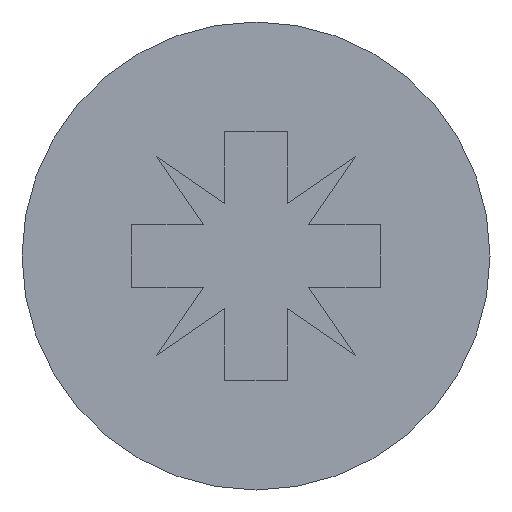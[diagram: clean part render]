
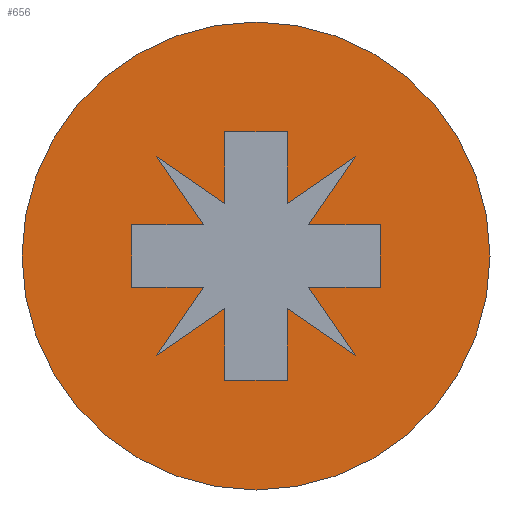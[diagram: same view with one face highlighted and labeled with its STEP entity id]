
A CAD part, left-side view. The second image highlights one B-rep face of the part: STEP entity #656.
In plain terms, the highlighted planar face has unit normal (-1, 0, 0).
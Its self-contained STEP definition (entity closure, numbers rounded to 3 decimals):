
#110=FACE_BOUND('',#190,.T.);
#125=CIRCLE('',#704,2.35);
#159=FACE_OUTER_BOUND('',#189,.T.);
#189=EDGE_LOOP('',(#583));
#190=EDGE_LOOP('',(#584,#585,#586,#587,#588,#589,#590,#591,#592,#593,#594,
#595,#596,#597,#598,#599,#600,#601,#602,#603));
#192=LINE('',#871,#258);
#196=LINE('',#880,#262);
#200=LINE('',#889,#266);
#206=LINE('',#901,#272);
#209=LINE('',#907,#275);
#212=LINE('',#913,#278);
#215=LINE('',#919,#281);
#217=LINE('',#924,#283);
#221=LINE('',#931,#287);
#224=LINE('',#937,#290);
#227=LINE('',#943,#293);
#237=LINE('',#961,#303);
#239=LINE('',#966,#305);
#242=LINE('',#970,#308);
#243=LINE('',#972,#309);
#244=LINE('',#975,#310);
#246=LINE('',#978,#312);
#247=LINE('',#981,#313);
#249=LINE('',#984,#315);
#250=LINE('',#986,#316);
#258=VECTOR('',#718,10.);
#262=VECTOR('',#724,10.);
#266=VECTOR('',#730,10.);
#272=VECTOR('',#738,10.);
#275=VECTOR('',#743,10.);
#278=VECTOR('',#748,10.);
#281=VECTOR('',#753,10.);
#283=VECTOR('',#757,10.);
#287=VECTOR('',#763,10.);
#290=VECTOR('',#768,10.);
#293=VECTOR('',#773,10.);
#303=VECTOR('',#787,10.);
#305=VECTOR('',#791,10.);
#308=VECTOR('',#796,10.);
#309=VECTOR('',#799,10.);
#310=VECTOR('',#802,10.);
#312=VECTOR('',#806,10.);
#313=VECTOR('',#809,10.);
#315=VECTOR('',#813,10.);
#316=VECTOR('',#816,10.);
#323=VERTEX_POINT('',#867);
#325=VERTEX_POINT('',#870);
#327=VERTEX_POINT('',#876);
#329=VERTEX_POINT('',#879);
#331=VERTEX_POINT('',#885);
#333=VERTEX_POINT('',#888);
#336=VERTEX_POINT('',#895);
#338=VERTEX_POINT('',#899);
#340=VERTEX_POINT('',#904);
#342=VERTEX_POINT('',#910);
#344=VERTEX_POINT('',#916);
#345=VERTEX_POINT('',#921);
#348=VERTEX_POINT('',#929);
#350=VERTEX_POINT('',#935);
#352=VERTEX_POINT('',#941);
#358=VERTEX_POINT('',#960);
#359=VERTEX_POINT('',#964);
#360=VERTEX_POINT('',#965);
#361=VERTEX_POINT('',#974);
#362=VERTEX_POINT('',#980);
#370=VERTEX_POINT('',#1008);
#374=EDGE_CURVE('',#325,#323,#192,.T.);
#378=EDGE_CURVE('',#329,#327,#196,.T.);
#382=EDGE_CURVE('',#333,#331,#200,.T.);
#388=EDGE_CURVE('',#336,#338,#206,.T.);
#391=EDGE_CURVE('',#340,#333,#209,.T.);
#394=EDGE_CURVE('',#342,#325,#212,.T.);
#397=EDGE_CURVE('',#344,#329,#215,.T.);
#399=EDGE_CURVE('',#338,#345,#217,.T.);
#403=EDGE_CURVE('',#323,#348,#221,.T.);
#406=EDGE_CURVE('',#327,#350,#224,.T.);
#409=EDGE_CURVE('',#331,#352,#227,.T.);
#419=EDGE_CURVE('',#358,#336,#237,.T.);
#421=EDGE_CURVE('',#359,#360,#239,.T.);
#424=EDGE_CURVE('',#345,#359,#242,.T.);
#425=EDGE_CURVE('',#352,#358,#243,.T.);
#426=EDGE_CURVE('',#361,#340,#244,.T.);
#428=EDGE_CURVE('',#348,#361,#246,.T.);
#429=EDGE_CURVE('',#362,#342,#247,.T.);
#431=EDGE_CURVE('',#350,#362,#249,.T.);
#432=EDGE_CURVE('',#360,#344,#250,.T.);
#444=EDGE_CURVE('',#370,#370,#125,.T.);
#583=ORIENTED_EDGE('',*,*,#444,.F.);
#584=ORIENTED_EDGE('',*,*,#374,.T.);
#585=ORIENTED_EDGE('',*,*,#403,.T.);
#586=ORIENTED_EDGE('',*,*,#428,.T.);
#587=ORIENTED_EDGE('',*,*,#426,.T.);
#588=ORIENTED_EDGE('',*,*,#391,.T.);
#589=ORIENTED_EDGE('',*,*,#382,.T.);
#590=ORIENTED_EDGE('',*,*,#409,.T.);
#591=ORIENTED_EDGE('',*,*,#425,.T.);
#592=ORIENTED_EDGE('',*,*,#419,.T.);
#593=ORIENTED_EDGE('',*,*,#388,.T.);
#594=ORIENTED_EDGE('',*,*,#399,.T.);
#595=ORIENTED_EDGE('',*,*,#424,.T.);
#596=ORIENTED_EDGE('',*,*,#421,.T.);
#597=ORIENTED_EDGE('',*,*,#432,.T.);
#598=ORIENTED_EDGE('',*,*,#397,.T.);
#599=ORIENTED_EDGE('',*,*,#378,.T.);
#600=ORIENTED_EDGE('',*,*,#406,.T.);
#601=ORIENTED_EDGE('',*,*,#431,.T.);
#602=ORIENTED_EDGE('',*,*,#429,.T.);
#603=ORIENTED_EDGE('',*,*,#394,.T.);
#626=PLANE('',#711);
#656=ADVANCED_FACE('',(#159,#110),#626,.T.);
#704=AXIS2_PLACEMENT_3D('',#1010,#844,#845);
#711=AXIS2_PLACEMENT_3D('',#1022,#861,#862);
#718=DIRECTION('',(0.,0.824,0.567));
#724=DIRECTION('',(0.,0.567,-0.824));
#730=DIRECTION('',(0.,-0.567,0.824));
#738=DIRECTION('',(0.,0.567,0.824));
#743=DIRECTION('',(0.,0.824,-0.567));
#748=DIRECTION('',(0.,-0.567,-0.824));
#753=DIRECTION('',(0.,-0.824,0.567));
#757=DIRECTION('',(0.,-0.824,-0.567));
#763=DIRECTION('',(0.,0.,-1.));
#768=DIRECTION('',(0.,-1.,0.));
#773=DIRECTION('',(0.,1.,0.));
#787=DIRECTION('',(0.,-1.,0.));
#791=DIRECTION('',(0.,-1.,0.));
#796=DIRECTION('',(0.,0.,1.));
#799=DIRECTION('',(0.,0.,1.));
#802=DIRECTION('',(0.,0.,1.));
#806=DIRECTION('',(0.,1.,0.));
#809=DIRECTION('',(0.,1.,0.));
#813=DIRECTION('',(0.,0.,-1.));
#816=DIRECTION('',(0.,0.,-1.));
#844=DIRECTION('center_axis',(1.,0.,0.));
#845=DIRECTION('ref_axis',(0.,0.,-1.));
#861=DIRECTION('center_axis',(-1.,0.,0.));
#862=DIRECTION('ref_axis',(0.,0.,1.));
#867=CARTESIAN_POINT('',(0.,-0.313,-0.527));
#870=CARTESIAN_POINT('',(0.,-1.,-1.));
#871=CARTESIAN_POINT('',(0.,0.371,-0.058));
#876=CARTESIAN_POINT('',(0.,-0.527,0.313));
#879=CARTESIAN_POINT('',(0.,-1.,1.));
#880=CARTESIAN_POINT('',(0.,-0.229,-0.121));
#885=CARTESIAN_POINT('',(0.,0.527,-0.313));
#888=CARTESIAN_POINT('',(0.,1.,-1.));
#889=CARTESIAN_POINT('',(0.,0.983,-0.976));
#895=CARTESIAN_POINT('',(0.,0.527,0.313));
#899=CARTESIAN_POINT('',(0.,1.,1.));
#901=CARTESIAN_POINT('',(0.,0.639,0.476));
#904=CARTESIAN_POINT('',(0.,0.313,-0.527));
#907=CARTESIAN_POINT('',(0.,0.725,-0.811));
#910=CARTESIAN_POINT('',(0.,-0.527,-0.313));
#913=CARTESIAN_POINT('',(0.,0.115,0.621));
#916=CARTESIAN_POINT('',(0.,-0.313,0.527));
#919=CARTESIAN_POINT('',(0.,0.871,-0.286));
#921=CARTESIAN_POINT('',(0.,0.313,0.527));
#924=CARTESIAN_POINT('',(0.,1.225,1.155));
#929=CARTESIAN_POINT('',(0.,-0.313,-1.25));
#931=CARTESIAN_POINT('',(0.,-0.313,-0.156));
#935=CARTESIAN_POINT('',(0.,-1.25,0.313));
#937=CARTESIAN_POINT('',(0.,1.019,0.313));
#941=CARTESIAN_POINT('',(0.,1.25,-0.313));
#943=CARTESIAN_POINT('',(0.,1.331,-0.313));
#960=CARTESIAN_POINT('',(0.,1.25,0.313));
#961=CARTESIAN_POINT('',(0.,1.8,0.313));
#964=CARTESIAN_POINT('',(0.,0.313,1.25));
#965=CARTESIAN_POINT('',(0.,-0.313,1.25));
#966=CARTESIAN_POINT('',(0.,1.331,1.25));
#970=CARTESIAN_POINT('',(0.,0.313,0.156));
#972=CARTESIAN_POINT('',(0.,1.25,-0.156));
#974=CARTESIAN_POINT('',(0.,0.313,-1.25));
#975=CARTESIAN_POINT('',(0.,0.313,-0.625));
#978=CARTESIAN_POINT('',(0.,1.019,-1.25));
#980=CARTESIAN_POINT('',(0.,-1.25,-0.313));
#981=CARTESIAN_POINT('',(0.,0.55,-0.313));
#984=CARTESIAN_POINT('',(0.,-1.25,0.156));
#986=CARTESIAN_POINT('',(0.,-0.313,0.625));
#1008=CARTESIAN_POINT('',(0.,-2.35,0.));
#1010=CARTESIAN_POINT('Origin',(0.,0.,0.));
#1022=CARTESIAN_POINT('Origin',(0.,2.35,0.));
